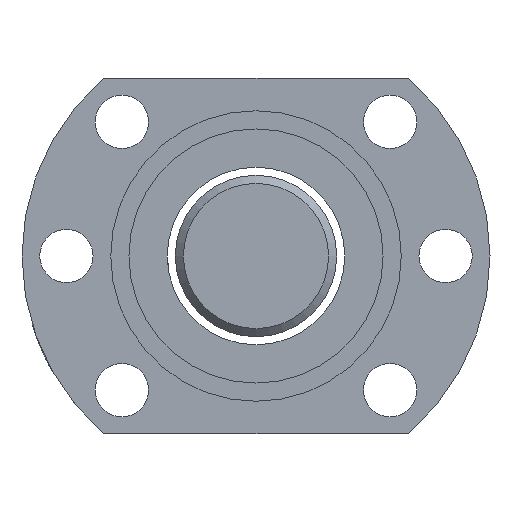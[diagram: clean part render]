
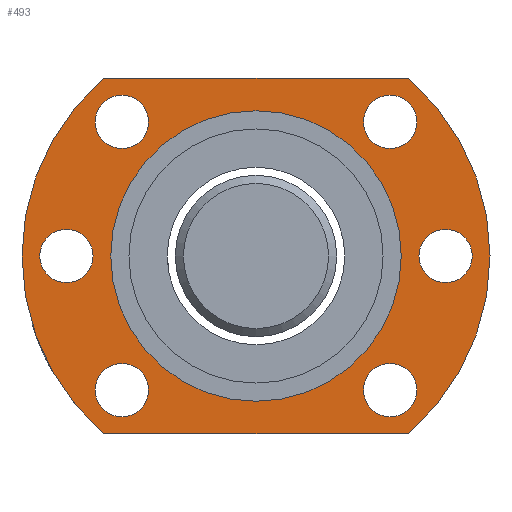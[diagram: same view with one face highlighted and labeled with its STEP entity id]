
A CAD part, left-side view. The second image highlights one B-rep face of the part: STEP entity #493.
In plain terms, the highlighted planar face has unit normal (-1, 0, 0).
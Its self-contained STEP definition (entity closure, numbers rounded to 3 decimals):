
#3 = CARTESIAN_POINT ( 'NONE',  ( 20.573, -63.139, 19.458 ) ) ;
#17 = DIRECTION ( 'NONE',  ( -1., 0., 0. ) ) ;
#21 = EDGE_CURVE ( 'NONE', #2428, #2428, #35, .T. ) ;
#35 = CIRCLE ( 'NONE', #196, 3.3 ) ;
#37 = CARTESIAN_POINT ( 'NONE',  ( 20.573, -20.745, -2.542 ) ) ;
#61 = CARTESIAN_POINT ( 'NONE',  ( 20.573, -39.639, 19.458 ) ) ;
#117 = CARTESIAN_POINT ( 'NONE',  ( 20.573, -56.256, 39.375 ) ) ;
#120 = EDGE_CURVE ( 'NONE', #1378, #2490, #2499, .T. ) ;
#155 = ORIENTED_EDGE ( 'NONE', *, *, #1001, .T. ) ;
#188 = AXIS2_PLACEMENT_3D ( 'NONE', #1012, #17, #1337 ) ;
#196 = AXIS2_PLACEMENT_3D ( 'NONE', #1825, #658, #1632 ) ;
#231 = FACE_BOUND ( 'NONE', #1605, .T. ) ;
#262 = DIRECTION ( 'NONE',  ( 0., 0., 1. ) ) ;
#329 = CARTESIAN_POINT ( 'NONE',  ( 20.573, -23.022, 2.841 ) ) ;
#368 = DIRECTION ( 'NONE',  ( 0., -1., 0. ) ) ;
#384 = AXIS2_PLACEMENT_3D ( 'NONE', #1732, #587, #1515 ) ;
#403 = EDGE_LOOP ( 'NONE', ( #1237 ) ) ;
#417 = EDGE_LOOP ( 'NONE', ( #1187 ) ) ;
#427 = AXIS2_PLACEMENT_3D ( 'NONE', #2475, #2070, #1712 ) ;
#452 = CARTESIAN_POINT ( 'NONE',  ( 20.573, -23.022, 36.075 ) ) ;
#475 = DIRECTION ( 'NONE',  ( -1., 0., 0. ) ) ;
#493 = ADVANCED_FACE ( 'NONE', ( #795, #2358, #2140, #231, #1723, #2167, #609, #1148 ), #1380, .T. ) ;
#513 = AXIS2_PLACEMENT_3D ( 'NONE', #452, #643, #262 ) ;
#543 = CARTESIAN_POINT ( 'NONE',  ( 20.573, -23.022, 39.375 ) ) ;
#587 = DIRECTION ( 'NONE',  ( -1., 0., 0. ) ) ;
#609 = FACE_BOUND ( 'NONE', #1338, .T. ) ;
#622 = DIRECTION ( 'NONE',  ( -1., 0., 0. ) ) ;
#633 = EDGE_LOOP ( 'NONE', ( #2529 ) ) ;
#637 = CIRCLE ( 'NONE', #753, 18. ) ;
#643 = DIRECTION ( 'NONE',  ( -1., 0., 0. ) ) ;
#652 = CIRCLE ( 'NONE', #384, 3.3 ) ;
#658 = DIRECTION ( 'NONE',  ( 1., 0., 0. ) ) ;
#692 = VERTEX_POINT ( 'NONE', #117 ) ;
#700 = CARTESIAN_POINT ( 'NONE',  ( 20.573, -58.533, 41.458 ) ) ;
#728 = VERTEX_POINT ( 'NONE', #770 ) ;
#753 = AXIS2_PLACEMENT_3D ( 'NONE', #1644, #475, #1841 ) ;
#759 = DIRECTION ( 'NONE',  ( 0., 0., 1. ) ) ;
#768 = CARTESIAN_POINT ( 'NONE',  ( 20.573, -20.745, 41.458 ) ) ;
#770 = CARTESIAN_POINT ( 'NONE',  ( 20.573, -58.533, -2.542 ) ) ;
#793 = EDGE_LOOP ( 'NONE', ( #2453 ) ) ;
#795 = FACE_BOUND ( 'NONE', #633, .T. ) ;
#846 = VECTOR ( 'NONE', #1876, 1000. ) ;
#869 = DIRECTION ( 'NONE',  ( 0., 0., -1. ) ) ;
#891 = EDGE_CURVE ( 'NONE', #728, #1378, #1872, .T. ) ;
#901 = VERTEX_POINT ( 'NONE', #1272 ) ;
#925 = VERTEX_POINT ( 'NONE', #1485 ) ;
#991 = ORIENTED_EDGE ( 'NONE', *, *, #120, .T. ) ;
#1001 = EDGE_CURVE ( 'NONE', #1854, #1854, #1090, .T. ) ;
#1007 = CARTESIAN_POINT ( 'NONE',  ( 20.573, -56.256, 6.141 ) ) ;
#1012 = CARTESIAN_POINT ( 'NONE',  ( 20.573, -39.639, 19.458 ) ) ;
#1040 = CIRCLE ( 'NONE', #427, 3.3 ) ;
#1052 = EDGE_CURVE ( 'NONE', #901, #901, #652, .T. ) ;
#1090 = CIRCLE ( 'NONE', #1417, 3.3 ) ;
#1148 = FACE_BOUND ( 'NONE', #2138, .T. ) ;
#1156 = DIRECTION ( 'NONE',  ( 0., 0., 1. ) ) ;
#1172 = DIRECTION ( 'NONE',  ( 1., 0., 0. ) ) ;
#1187 = ORIENTED_EDGE ( 'NONE', *, *, #1614, .F. ) ;
#1237 = ORIENTED_EDGE ( 'NONE', *, *, #1052, .F. ) ;
#1272 = CARTESIAN_POINT ( 'NONE',  ( 20.573, -16.139, 22.758 ) ) ;
#1286 = VECTOR ( 'NONE', #368, 1000. ) ;
#1337 = DIRECTION ( 'NONE',  ( 0., 0., -1. ) ) ;
#1338 = EDGE_LOOP ( 'NONE', ( #1666 ) ) ;
#1362 = ORIENTED_EDGE ( 'NONE', *, *, #2365, .T. ) ;
#1378 = VERTEX_POINT ( 'NONE', #1428 ) ;
#1380 = PLANE ( 'NONE',  #2481 ) ;
#1390 = LINE ( 'NONE', #2123, #1286 ) ;
#1406 = EDGE_CURVE ( 'NONE', #2489, #2489, #1568, .T. ) ;
#1417 = AXIS2_PLACEMENT_3D ( 'NONE', #3, #1172, #1156 ) ;
#1428 = CARTESIAN_POINT ( 'NONE',  ( 20.573, -58.533, 41.458 ) ) ;
#1454 = EDGE_CURVE ( 'NONE', #2462, #2462, #637, .T. ) ;
#1485 = CARTESIAN_POINT ( 'NONE',  ( 20.573, -23.022, 6.141 ) ) ;
#1515 = DIRECTION ( 'NONE',  ( 0., 0., 1. ) ) ;
#1568 = CIRCLE ( 'NONE', #513, 3.3 ) ;
#1579 = ORIENTED_EDGE ( 'NONE', *, *, #1406, .F. ) ;
#1580 = EDGE_CURVE ( 'NONE', #692, #692, #1040, .T. ) ;
#1605 = EDGE_LOOP ( 'NONE', ( #1579 ) ) ;
#1614 = EDGE_CURVE ( 'NONE', #925, #925, #2468, .T. ) ;
#1632 = DIRECTION ( 'NONE',  ( 0., 0., 1. ) ) ;
#1644 = CARTESIAN_POINT ( 'NONE',  ( 20.573, -39.639, 19.458 ) ) ;
#1666 = ORIENTED_EDGE ( 'NONE', *, *, #1454, .F. ) ;
#1712 = DIRECTION ( 'NONE',  ( 0., 0., 1. ) ) ;
#1723 = FACE_BOUND ( 'NONE', #403, .T. ) ;
#1732 = CARTESIAN_POINT ( 'NONE',  ( 20.573, -16.139, 19.458 ) ) ;
#1781 = CARTESIAN_POINT ( 'NONE',  ( 20.573, -39.639, 19.458 ) ) ;
#1825 = CARTESIAN_POINT ( 'NONE',  ( 20.573, -56.256, 2.841 ) ) ;
#1841 = DIRECTION ( 'NONE',  ( 0., 0., -1. ) ) ;
#1854 = VERTEX_POINT ( 'NONE', #1901 ) ;
#1872 = CIRCLE ( 'NONE', #2202, 29. ) ;
#1876 = DIRECTION ( 'NONE',  ( 0., 1., 0. ) ) ;
#1879 = ORIENTED_EDGE ( 'NONE', *, *, #2287, .T. ) ;
#1888 = DIRECTION ( 'NONE',  ( -1., 0., 0. ) ) ;
#1900 = DIRECTION ( 'NONE',  ( 0., 0., 1. ) ) ;
#1901 = CARTESIAN_POINT ( 'NONE',  ( 20.573, -63.139, 22.758 ) ) ;
#1961 = VERTEX_POINT ( 'NONE', #37 ) ;
#1986 = CIRCLE ( 'NONE', #188, 29. ) ;
#1989 = EDGE_LOOP ( 'NONE', ( #1362, #1879, #2192, #991 ) ) ;
#2058 = CARTESIAN_POINT ( 'NONE',  ( 20.573, -39.639, 1.458 ) ) ;
#2070 = DIRECTION ( 'NONE',  ( 1., 0., 0. ) ) ;
#2123 = CARTESIAN_POINT ( 'NONE',  ( 20.573, -20.745, -2.542 ) ) ;
#2138 = EDGE_LOOP ( 'NONE', ( #155 ) ) ;
#2140 = FACE_BOUND ( 'NONE', #417, .T. ) ;
#2167 = FACE_OUTER_BOUND ( 'NONE', #1989, .T. ) ;
#2192 = ORIENTED_EDGE ( 'NONE', *, *, #891, .T. ) ;
#2202 = AXIS2_PLACEMENT_3D ( 'NONE', #61, #2410, #869 ) ;
#2287 = EDGE_CURVE ( 'NONE', #1961, #728, #1390, .T. ) ;
#2358 = FACE_BOUND ( 'NONE', #793, .T. ) ;
#2365 = EDGE_CURVE ( 'NONE', #2490, #1961, #1986, .T. ) ;
#2410 = DIRECTION ( 'NONE',  ( -1., 0., 0. ) ) ;
#2428 = VERTEX_POINT ( 'NONE', #1007 ) ;
#2453 = ORIENTED_EDGE ( 'NONE', *, *, #21, .T. ) ;
#2462 = VERTEX_POINT ( 'NONE', #2058 ) ;
#2468 = CIRCLE ( 'NONE', #2509, 3.3 ) ;
#2475 = CARTESIAN_POINT ( 'NONE',  ( 20.573, -56.256, 36.075 ) ) ;
#2481 = AXIS2_PLACEMENT_3D ( 'NONE', #1781, #622, #759 ) ;
#2489 = VERTEX_POINT ( 'NONE', #543 ) ;
#2490 = VERTEX_POINT ( 'NONE', #768 ) ;
#2499 = LINE ( 'NONE', #700, #846 ) ;
#2509 = AXIS2_PLACEMENT_3D ( 'NONE', #329, #1888, #1900 ) ;
#2529 = ORIENTED_EDGE ( 'NONE', *, *, #1580, .T. ) ;
